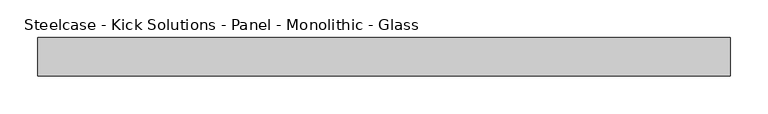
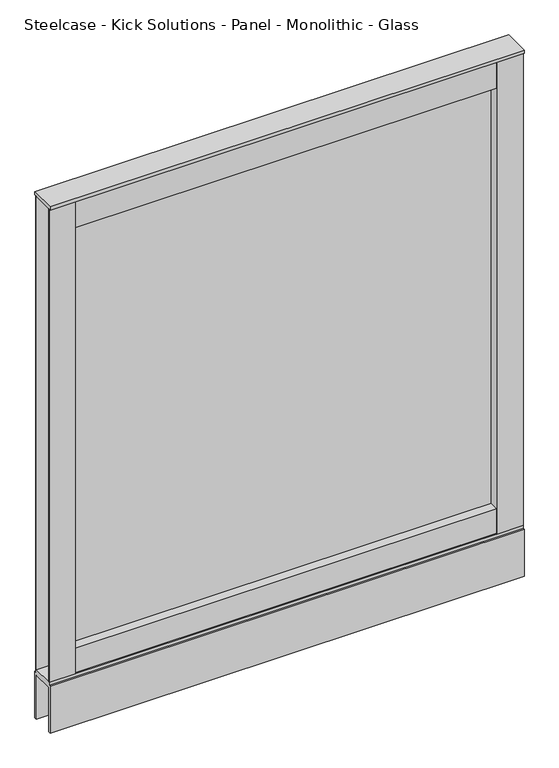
"""IFC4 building model written with IfcOpenShell, lengths in millimetres: furniture geometry, Steelcase - Kick Solutions - Panel - Monolithic - Glass : 42H x 36W."""

import ifcopenshell
import ifcopenshell.guid

model = None  # the IFC model being written
_history = None  # IfcOwnerHistory: only IFC2X3 demands one
_inside = {}  # id of a spatial element -> (the spatial element, [elements in it])
_under = {}  # id of a project, library or spatial element -> (it, [spatial elements below it])
_declared = {}  # id of a project -> (the project, [libraries it declares])
_typed = {}  # id of a type object -> (the type object, [elements of that type])
_made_of = {}  # id of a material, layer set ... -> (it, [elements and type objects made of it])


def new_model(schema):
    """Start an empty IFC model of exactly this schema.

    Asked for "IFC4X3", IfcOpenShell would pick the latest addendum, in which some entities
    have other attributes; the version numbers below select the first issue.
    IFC2X3 requires an IfcOwnerHistory on every rooted entity: one is made here for all.
    """
    global model, _history
    if schema == "IFC4X3":
        model = ifcopenshell.file(schema_version=(4, 3, 0, 0))
    else:
        model = ifcopenshell.file(schema=schema)
    _inside.clear()
    _under.clear()
    _declared.clear()
    _typed.clear()
    _made_of.clear()
    _history = None
    if model.schema == "IFC2X3":
        org = make("IfcOrganization", Name="unknown")
        user = make(
            "IfcPersonAndOrganization",
            ThePerson=make("IfcPerson", FamilyName="unknown"),
            TheOrganization=org,
        )
        app = make(
            "IfcApplication",
            ApplicationDeveloper=org,
            Version="unknown",
            ApplicationFullName="unknown",
            ApplicationIdentifier="unknown",
        )
        _history = make(
            "IfcOwnerHistory",
            OwningUser=user,
            OwningApplication=app,
            ChangeAction="ADDED",
            CreationDate=0,
        )
    return model


def make(cls, **values):
    """One entity of the class cls with the attributes given. An attribute that is None is left unset."""
    return model.create_entity(
        cls, **{name: value for name, value in values.items() if value is not None}
    )


def rooted(cls, **values):
    """An entity with a GlobalId (a new one), such as an element, a storey or a relation."""
    return make(cls, GlobalId=ifcopenshell.guid.new(), OwnerHistory=_history, **values)


def si_unit(unit_type, name, prefix=None):
    """IfcSIUnit, for example si_unit("LENGTHUNIT", "METRE", prefix="MILLI")."""
    return make("IfcSIUnit", UnitType=unit_type, Prefix=prefix, Name=name)


def assignment(units):
    """IfcUnitAssignment: the units of a project."""
    return None if units is None else make("IfcUnitAssignment", Units=units)


def point(xyz):
    """IfcCartesianPoint."""
    return None if xyz is None else make("IfcCartesianPoint", Coordinates=xyz)


def direction(xyz):
    """IfcDirection."""
    return None if xyz is None else make("IfcDirection", DirectionRatios=xyz)


def frame(location, z_axis=None, x_axis=None):
    """IfcAxis2Placement3D, a coordinate frame: its origin and axes. An axis left out is left unset."""
    return make(
        "IfcAxis2Placement3D",
        Location=point(location),
        Axis=direction(z_axis),
        RefDirection=direction(x_axis),
    )


def origin():
    """The frame at (0, 0, 0) with its axes left unset."""
    return frame((0.0, 0.0, 0.0))


def place(relative_to, where):
    """IfcLocalPlacement: puts the frame where relative to a parent placement (None: the world)."""
    return make(
        "IfcLocalPlacement", PlacementRelTo=relative_to, RelativePlacement=where
    )


def context(
    kind, dimensions, precision=None, world=None, true_north=None, identifier=None
):
    """IfcGeometricRepresentationContext, for example the 3D "Model" context."""
    return make(
        "IfcGeometricRepresentationContext",
        ContextIdentifier=identifier,
        ContextType=kind,
        CoordinateSpaceDimension=dimensions,
        Precision=precision,
        WorldCoordinateSystem=world,
        TrueNorth=true_north,
    )


def project(units=None, contexts=None):
    """IfcProject with its units and contexts."""
    return rooted(
        "IfcProject",
        Name="project",
        RepresentationContexts=contexts,
        UnitsInContext=assignment(units),
    )


def spatial(cls, under=None, at=None, **own):
    """A site, building, storey or space (cls), placed at a placement, below another one or the project."""
    s = rooted(cls, ObjectPlacement=at, **own)
    if under is not None:
        _under.setdefault(under.id(), (under, []))[1].append(s)
    return s


def polyline(points):
    """IfcPolyline through the points."""
    return make("IfcPolyline", Points=[point(p) for p in points])


def outline(outer, holes=None, kind="AREA"):
    """IfcArbitraryClosedProfileDef: a profile drawn as a closed curve; with holes, ...WithVoids."""
    if holes is None:
        return make("IfcArbitraryClosedProfileDef", ProfileType=kind, OuterCurve=outer)
    return make(
        "IfcArbitraryProfileDefWithVoids",
        ProfileType=kind,
        OuterCurve=outer,
        InnerCurves=holes,
    )


def extrude(swept, where, along, depth):
    """IfcExtrudedAreaSolid: the profile swept, set in the frame where, extruded along a direction by depth."""
    return make(
        "IfcExtrudedAreaSolid",
        SweptArea=swept,
        Position=where,
        ExtrudedDirection=direction(along),
        Depth=depth,
    )


def shape(context_of_items, identifier, shape_type, items):
    """IfcShapeRepresentation: the items that make up one representation, for example the "Body"."""
    return make(
        "IfcShapeRepresentation",
        ContextOfItems=context_of_items,
        RepresentationIdentifier=identifier,
        RepresentationType=shape_type,
        Items=items,
    )


def source(mapping_origin, context_of_items, identifier, shape_type, items):
    """IfcRepresentationMap: a shape defined once, which mapped items show again and again."""
    return make(
        "IfcRepresentationMap",
        MappingOrigin=mapping_origin,
        MappedRepresentation=shape(context_of_items, identifier, shape_type, items),
    )


def transform(
    local_origin,
    x_axis=None,
    y_axis=None,
    z_axis=None,
    scale=None,
    scale2=None,
    scale3=None,
    uniform=True,
):
    """IfcCartesianTransformationOperator3D, or its non-uniform kind. x_axis, y_axis, z_axis: its Axis1, 2, 3."""
    if uniform:
        return make(
            "IfcCartesianTransformationOperator3D",
            Axis1=direction(x_axis),
            Axis2=direction(y_axis),
            LocalOrigin=point(local_origin),
            Scale=scale,
            Axis3=direction(z_axis),
        )
    return make(
        "IfcCartesianTransformationOperator3DnonUniform",
        Axis1=direction(x_axis),
        Axis2=direction(y_axis),
        LocalOrigin=point(local_origin),
        Scale=scale,
        Axis3=direction(z_axis),
        Scale2=scale2,
        Scale3=scale3,
    )


def mapped(mapping_source, mapping_target):
    """IfcMappedItem: shows the shape of a source again, moved by a transform."""
    return make(
        "IfcMappedItem", MappingSource=mapping_source, MappingTarget=mapping_target
    )


def made_of(thing, what):
    """Note that an element or type object is made of a material, layer set ...; save() writes the relation."""
    if what is not None:
        _made_of.setdefault(what.id(), (what, []))[1].append(thing)
    return thing


def element(
    cls,
    number,
    at=None,
    inside=None,
    cuts=None,
    type_object=None,
    material=None,
    context=None,
    identifier="Body",
    shape_type=None,
    held_by="IfcProductDefinitionShape",
    body=None,
    shapes=None,
    **own,
):
    """One element of the class cls, such as IfcWall. Its Tag is "e" and its number.

    at: its placement. inside: the storey or other place that contains it. cuts: it is an
    opening in that element (IfcRelVoidsElement). A single representation is given by context,
    identifier, shape_type and body (its items); several are given by shapes. held_by: the class
    of the entity that holds the representations. save() writes the other relations.
    """
    e = rooted(cls, Tag="e%d" % number, ObjectPlacement=at, **own)
    if body is not None:
        shapes = [shape(context, identifier, shape_type, body)]
    if shapes is not None:
        e.Representation = make(held_by, Representations=shapes)
    if inside is not None:
        _inside.setdefault(inside.id(), (inside, []))[1].append(e)
    if cuts is not None:
        rooted(
            "IfcRelVoidsElement", RelatingBuildingElement=cuts, RelatedOpeningElement=e
        )
    if type_object is not None:
        _typed.setdefault(type_object.id(), (type_object, []))[1].append(e)
    return made_of(e, material)


def aggregate(whole, parts):
    """IfcRelAggregates: a whole, such as a stair, and the parts it consists of."""
    return rooted("IfcRelAggregates", RelatingObject=whole, RelatedObjects=parts)


def save(model, path):
    """Write the relations noted so far, then the file.

    IfcRelAggregates (storeys below a building ...), IfcRelContainedInSpatialStructure (elements
    in a storey), IfcRelDefinesByType, IfcRelAssociatesMaterial and IfcRelDeclares: one each for
    every whole, place, type object, material and project.
    """
    for whole, parts in _under.values():
        aggregate(whole, parts)
    for where, things in _inside.values():
        rooted(
            "IfcRelContainedInSpatialStructure",
            RelatedElements=things,
            RelatingStructure=where,
        )
    for kind, things in _typed.values():
        rooted("IfcRelDefinesByType", RelatedObjects=things, RelatingType=kind)
    for what, things in _made_of.values():
        rooted("IfcRelAssociatesMaterial", RelatedObjects=things, RelatingMaterial=what)
    for by, libraries in _declared.values():
        rooted("IfcRelDeclares", RelatingContext=by, RelatedDefinitions=libraries)
    model.write(path)


def steelcase_kick_solutions_panel_monolithic_glass_01026a31(model_context):
    return source(origin(), model_context, "Body", "SweptSolid", [
        extrude(outline(polyline([(863.6006661, -5.08), (863.6006661, -45.7200015), (50.8006646, -45.7200015), (50.8006646, -5.08), (863.6006661, -5.08)])), frame((0.0, 0.0, 101.7169049), z_axis=(0.0, 0.0, 1.0), x_axis=(1.0, 0.0, 0.0)), (0.0, 0.0, 1.0), 50.6830951),
        extrude(outline(polyline([(863.6006661, -5.08), (863.6006661, -45.7200015), (50.8006646, -45.7200015), (50.8006646, -5.08), (863.6006661, -5.08)])), frame((0.0, 0.0, 1009.65), z_axis=(0.0, 0.0, 1.0), x_axis=(1.0, 0.0, 0.0)), (0.0, 0.0, 1.0), 57.15),
        extrude(outline(polyline([(50.8006646, -3.1743148), (50.8006646, -47.6243142), (0.0, -47.6243142), (0.0, -45.7200015), (47.7526646, -45.7200015), (47.7526646, -5.08), (0.0, -5.08), (0.0, -3.1743148), (50.8006646, -3.1743148)])), frame((0.0, 0.0, 101.7169049), z_axis=(0.0, 0.0, 1.0), x_axis=(1.0, 0.0, 0.0)), (0.0, 0.0, 1.0), 965.0830951),
        extrude(outline(polyline([(863.6006661, -3.1743148), (914.4, -3.1743148), (914.4, -5.08), (866.6486661, -5.08), (866.6486661, -45.7200015), (914.4, -45.7200015), (914.4, -47.6243142), (863.6006661, -47.6243142), (863.6006661, -3.1743148)])), frame((0.0, 0.0, 101.7169049), z_axis=(0.0, 0.0, 1.0), x_axis=(1.0, 0.0, 0.0)), (0.0, 0.0, 1.0), 965.0830951),
        extrude(outline(polyline([(863.6006661, -28.422537), (50.8006646, -28.422537), (50.8006646, -25.4), (863.6006661, -25.4), (863.6006661, -28.422537)])), frame((0.0, 0.0, 152.4), z_axis=(0.0, 0.0, 1.0), x_axis=(1.0, 0.0, 0.0)), (0.0, 0.0, 1.0), 857.25),
        extrude(outline(polyline([(914.4, 0.0), (914.4, -50.8000015), (0.0, -50.8000015), (0.0, 0.0), (914.4, 0.0)])), frame((0.0, 0.0, 1066.8), z_axis=(0.0, 0.0, 1.0), x_axis=(1.0, 0.0, 0.0)), (0.0, 0.0, 1.0), 6.35),
        extrude(outline(polyline([(0.0, 0.0), (-5.08, 0.0), (-5.08, 90.2869018), (-45.7200015, 90.2869018), (-45.7200015, 0.0), (-50.8000015, 0.0), (-50.8000015, 95.3669018), (-47.6243142, 95.3669018), (-47.6243142, 101.7169049), (-3.1743148, 101.7169049), (-3.1743148, 95.3669018), (0.0, 95.3669018), (0.0, 0.0)])), frame((0.0, 0.0, 0.0), z_axis=(1.0, 0.0, 0.0), x_axis=(0.0, 1.0, 0.0)), (0.0, 0.0, 1.0), 914.4),
    ])


if __name__ == "__main__":
    model = new_model("IFC4")
    model_context = context("Model", 3, world=origin())
    ifc_project = project(units=[si_unit("LENGTHUNIT", "METRE", prefix="MILLI")], contexts=[model_context])
    site = spatial("IfcSite", under=ifc_project)
    building = spatial("IfcBuilding", under=site)
    placement = place(None, origin())
    steelcase_kick_solutions_panel_monolithic_glass_shape = steelcase_kick_solutions_panel_monolithic_glass_01026a31(model_context)
    element("IfcFurniture", 1, ObjectType="Steelcase - Kick Solutions - Panel - Monolithic - Glass : 42H x 36W", at=placement, inside=building, context=model_context, shape_type="MappedRepresentation", body=[
        mapped(steelcase_kick_solutions_panel_monolithic_glass_shape, transform((0.0, 0.0, 0.0), x_axis=(1.0, 0.0, 0.0), y_axis=(0.0, 1.0, 0.0), z_axis=(0.0, 0.0, 1.0))),
    ])
    save(model, "model.ifc")
